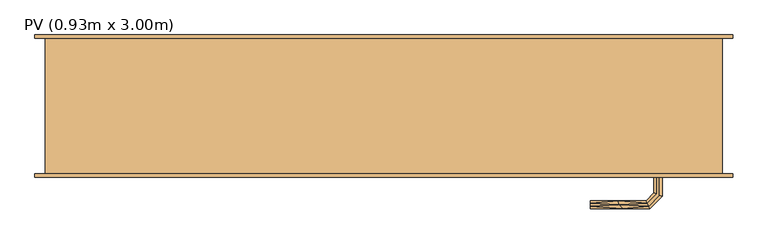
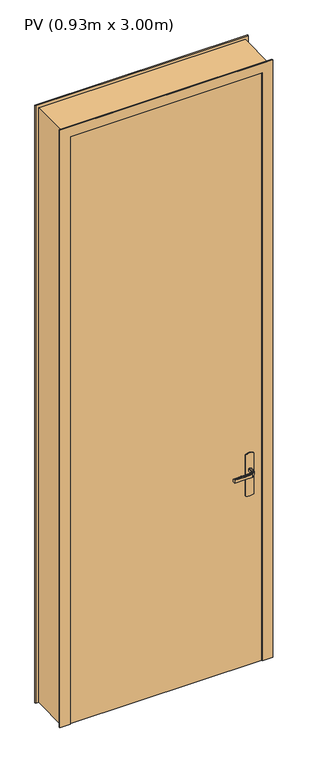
"""IFC4 building model written with IfcOpenShell, lengths in millimetres: door geometry, PV (0.93m x 3.00m)."""

from ifc_helpers import new_model, si_unit, frame, origin, origin_with_axes, place, context, project, spatial, polyline, outline, extrude, faceted_brep, source, transform, mapped, element, save


def pv_0_93m_x_3_00m_f2c375fd(model_context):
    return source(origin(), model_context, "Body", "SolidModel", [
        extrude(outline(polyline([(870.0, 995.0), (1080.0, 995.0), (1083.9960169, 985.3527618), (1085.3589838, 975.0), (1083.9960169, 964.6472382), (1080.0, 955.0), (870.0, 955.0), (866.0039831, 964.6472382), (864.6410162, 975.0), (866.0039831, 985.3527618), (870.0, 995.0)])), frame((0.0, -5.0, 0.0), z_axis=(0.0, 1.0, 0.0), x_axis=(0.0, 0.0, 1.0)), (0.0, 0.0, 1.0), 5.0),
        extrude(outline(polyline([(1035.0, 40.0), (1035.0, 0.0), (105.0, 0.0), (105.0, 40.0), (1035.0, 40.0)])), origin_with_axes(), (0.0, 0.0, 1.0), 3010.0),
        faceted_brep([(972.9747013, 45.0, 992.2195592), (977.0252987, 45.0, 992.2195592), (981.0, 45.0, 993.0), (981.0, 45.0, 1007.0), (977.0252987, 45.0, 1007.7804408), (972.9747013, 45.0, 1007.7804408), (969.0, 45.0, 1007.0), (969.0, 45.0, 993.0), (969.0, 67.4852045, 1007.0), (969.0, 67.4852045, 993.0), (972.9747013, 69.1315797, 1007.7804408), (977.0252987, 70.8093921, 1007.7804408), (960.8389062, 86.9957845, 1007.7804408), (959.1610938, 82.9451872, 1007.7804408), (981.0, 72.4557673, 1007.0), (981.0, 72.4557673, 993.0), (977.0252987, 70.8093921, 992.2195592), (972.9747013, 69.1315797, 992.2195592), (959.1610938, 82.9451872, 992.2195592), (960.8389062, 86.9957845, 992.2195592), (957.5147186, 78.9704859, 1007.0), (957.5147186, 78.9704859, 993.0), (962.4852814, 90.9704859, 1007.0), (962.4852814, 90.9704859, 993.0), (874.9542163, 82.9451872, 1007.7804408), (874.9542163, 86.9957845, 1007.7804408), (874.9542163, 90.9704859, 1007.0), (874.9542163, 90.9704859, 993.0), (874.9542163, 86.9957845, 992.2195592), (874.9542163, 82.9451872, 992.2195592), (874.9542163, 78.9704859, 993.0), (874.9542163, 78.9704859, 1007.0), (916.2344675, 78.9704859, 1007.0), (916.2344794, 78.9704859, 993.0), (917.0576551, 84.9704859, 1007.8786868), (922.5547942, 90.9704859, 1007.0), (922.5547957, 90.9704859, 993.0), (917.0576549, 84.9704858, 992.1213132)], [[[0, 1, 2, 3, 4, 5, 6, 7]], [[8, 9, 7, 6]], [[5, 10, 8, 6]], [[5, 4, 11, 12, 13, 10]], [[3, 14, 11, 4]], [[14, 3, 2, 15]], [[2, 1, 16, 15]], [[1, 0, 17, 18, 19, 16]], [[0, 7, 9, 17]], [[20, 21, 9, 8]], [[8, 10, 13, 20]], [[14, 22, 12, 11]], [[23, 22, 14, 15]], [[15, 16, 19, 23]], [[17, 9, 21, 18]], [[24, 25, 26, 27, 28, 29, 30, 31]], [[21, 20, 32, 31, 30, 33]], [[34, 24, 32]], [[25, 34, 35]], [[13, 32, 20]], [[24, 31, 32]], [[25, 35, 26]], [[35, 12, 22]], [[34, 12, 35]], [[34, 13, 12]], [[34, 32, 13]], [[24, 34, 25]], [[22, 23, 36, 27, 26, 35]], [[37, 28, 36]], [[36, 28, 27]], [[36, 23, 19]], [[18, 33, 37]], [[33, 18, 21]], [[30, 29, 33]], [[37, 29, 28]], [[37, 33, 29]], [[37, 36, 19]], [[18, 37, 19]]]),
        faceted_brep([(972.9747013, -5.0, 1007.7804408), (977.0252987, -5.0, 1007.7804408), (981.0, -5.0, 1007.0), (981.0, -5.0, 993.0), (977.0252987, -5.0, 992.2195592), (972.9747013, -5.0, 992.2195592), (969.0, -5.0, 993.0), (969.0, -5.0, 1007.0), (977.0252987, -31.0045755, 1007.7804408), (981.0, -32.6509507, 1007.0), (972.9747013, -29.3267632, 1007.7804408), (959.2986025, -43.002862, 1007.7804408), (960.9764148, -47.0534593, 1007.7804408), (969.0, -27.680388, 1007.0), (969.0, -27.680388, 993.0), (972.9747013, -29.3267632, 992.2195592), (977.0252987, -31.0045755, 992.2195592), (960.9764148, -47.0534593, 992.2195592), (959.2986025, -43.002862, 992.2195592), (981.0, -32.6509507, 993.0), (962.62279, -51.0281607, 1007.0), (957.6522273, -39.0281607, 1007.0), (957.6522273, -39.0281607, 993.0), (962.62279, -51.0281607, 993.0), (874.9813594, -51.0281607, 1007.0), (874.9813594, -47.0534593, 1007.7804408), (874.9813594, -43.002862, 1007.7804408), (874.9813594, -39.0281607, 1007.0), (874.9813594, -39.0281607, 993.0), (874.9813594, -43.002862, 992.2195592), (874.9813594, -47.0534593, 992.2195592), (874.9813594, -51.0281607, 993.0), (917.1399809, -45.0281607, 1007.8786868), (922.6923028, -51.0281607, 1007.0), (916.3167933, -39.0281607, 1007.0), (916.3167933, -39.0281607, 993.0), (917.1399811, -45.0281608, 992.1213132), (922.6923104, -51.0281607, 993.0)], [[[0, 1, 2, 3, 4, 5, 6, 7]], [[2, 1, 8, 9]], [[1, 0, 10, 11, 12, 8]], [[0, 7, 13, 10]], [[14, 13, 7, 6]], [[5, 15, 14, 6]], [[5, 4, 16, 17, 18, 15]], [[3, 19, 16, 4]], [[9, 19, 3, 2]], [[9, 8, 12, 20]], [[10, 13, 21, 11]], [[22, 21, 13, 14]], [[14, 15, 18, 22]], [[16, 19, 23, 17]], [[20, 23, 19, 9]], [[24, 25, 26, 27, 28, 29, 30, 31]], [[32, 25, 33]], [[33, 25, 24]], [[33, 20, 12]], [[11, 34, 32]], [[34, 11, 21]], [[27, 26, 34]], [[32, 26, 25]], [[32, 34, 26]], [[32, 33, 12]], [[11, 32, 12]], [[21, 22, 35, 28, 27, 34]], [[36, 29, 35]], [[30, 36, 37]], [[18, 35, 22]], [[29, 28, 35]], [[30, 37, 31]], [[37, 17, 23]], [[36, 17, 37]], [[36, 18, 17]], [[36, 35, 18]], [[29, 36, 30]], [[23, 20, 33, 24, 31, 37]]]),
        extrude(outline(polyline([(870.0, 995.0), (1080.0, 995.0), (1083.9960169, 985.3527618), (1085.3589838, 975.0), (1083.9960169, 964.6472382), (1080.0, 955.0), (870.0, 955.0), (866.0039831, 964.6472382), (864.6410162, 975.0), (866.0039831, 985.3527618), (870.0, 995.0)])), frame((0.0, 40.0, 0.0), z_axis=(0.0, 1.0, 0.0), x_axis=(0.0, 0.0, 1.0)), (0.0, 0.0, 1.0), 5.0),
        faceted_brep([(1070.0, 200.0, 0.0), (1070.0, 0.0, 0.0), (1085.0, 0.0, 0.0), (1085.0, -5.0, 0.0), (1035.0, -5.0, 0.0), (1035.0, 40.0, 0.0), (1020.0, 40.0, 0.0), (1020.0, 205.0, 0.0), (1085.0, 205.0, 0.0), (1085.0, 200.0, 0.0), (1085.0, 200.0, 3060.0), (55.0, 200.0, 3060.0), (55.0, 200.0, 0.0), (70.0, 200.0, 0.0), (70.0, 200.0, 3045.0), (1070.0, 200.0, 3045.0), (1085.0, 205.0, 3060.0), (1020.0, 205.0, 2995.0), (120.0, 205.0, 2995.0), (120.0, 205.0, 0.0), (55.0, 205.0, 0.0), (55.0, 205.0, 3060.0), (1020.0, 40.0, 2995.0), (1035.0, 40.0, 3010.0), (105.0, 40.0, 3010.0), (105.0, 40.0, 0.0), (120.0, 40.0, 0.0), (120.0, 40.0, 2995.0), (1035.0, -5.0, 3010.0), (1085.0, -5.0, 3060.0), (55.0, -5.0, 3060.0), (55.0, -5.0, 0.0), (105.0, -5.0, 0.0), (105.0, -5.0, 3010.0), (1085.0, 0.0, 3060.0), (1070.0, 0.0, 3045.0), (70.0, 0.0, 3045.0), (70.0, 0.0, 0.0), (55.0, 0.0, 0.0), (55.0, 0.0, 3060.0)], [[[0, 1, 2, 3, 4, 5, 6, 7, 8, 9]], [[9, 10, 11, 12, 13, 14, 15, 0]], [[8, 16, 10, 9]], [[7, 17, 18, 19, 20, 21, 16, 8]], [[7, 6, 22, 17]], [[5, 23, 24, 25, 26, 27, 22, 6]], [[5, 4, 28, 23]], [[3, 29, 30, 31, 32, 33, 28, 4]], [[2, 34, 29, 3]], [[1, 35, 36, 37, 38, 39, 34, 2]], [[0, 15, 35, 1]], [[14, 13, 37, 36]], [[13, 12, 20, 19, 26, 25, 32, 31, 38, 37]], [[21, 20, 12, 11]], [[27, 26, 19, 18]], [[33, 32, 25, 24]], [[39, 38, 31, 30]], [[15, 14, 36, 35]], [[16, 21, 11, 10]], [[22, 27, 18, 17]], [[28, 33, 24, 23]], [[34, 39, 30, 29]]]),
    ])


if __name__ == "__main__":
    model = new_model("IFC4")
    model_context = context("Model", 3, world=origin())
    ifc_project = project(units=[si_unit("LENGTHUNIT", "METRE", prefix="MILLI")], contexts=[model_context])
    site = spatial("IfcSite", under=ifc_project)
    building = spatial("IfcBuilding", under=site)
    placement = place(None, origin())
    pv_0_93m_x_3_00m_shape = pv_0_93m_x_3_00m_f2c375fd(model_context)
    element("IfcDoor", 1, ObjectType="PV (0.93m x 3.00m)", at=placement, inside=building, context=model_context, shape_type="MappedRepresentation", body=[
        mapped(pv_0_93m_x_3_00m_shape, transform((0.0, 0.0, 0.0), x_axis=(1.0, 0.0, 0.0), y_axis=(0.0, 1.0, 0.0), z_axis=(0.0, 0.0, 1.0))),
    ])
    save(model, "model.ifc")
